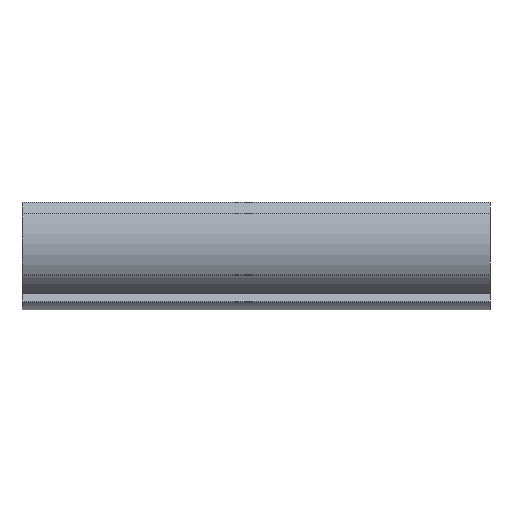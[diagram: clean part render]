
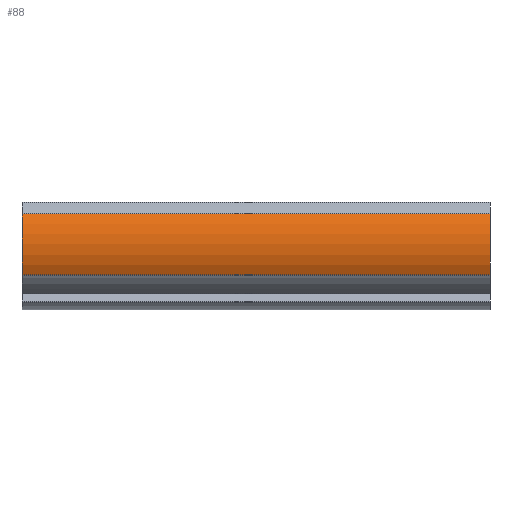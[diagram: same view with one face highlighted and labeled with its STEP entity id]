
A CAD part, left-side view. The second image highlights one B-rep face of the part: STEP entity #88.
In plain terms, the highlighted cylindrical face has radius 14 mm (diameter 28 mm), a partial arc.
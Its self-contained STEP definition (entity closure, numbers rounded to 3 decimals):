
#88 = ADVANCED_FACE( '', ( #212 ), #213, .T. );
#212 = FACE_OUTER_BOUND( '', #371, .T. );
#213 = CYLINDRICAL_SURFACE( '', #372, 14. );
#371 = EDGE_LOOP( '', ( #559, #560, #561, #562 ) );
#372 = AXIS2_PLACEMENT_3D( '', #563, #564, #565 );
#559 = ORIENTED_EDGE( '', *, *, #1025, .F. );
#560 = ORIENTED_EDGE( '', *, *, #1026, .F. );
#561 = ORIENTED_EDGE( '', *, *, #1027, .T. );
#562 = ORIENTED_EDGE( '', *, *, #1028, .T. );
#563 = CARTESIAN_POINT( '', ( 0., 100., 2.5 ) );
#564 = DIRECTION( '', ( 0., 1., 0. ) );
#565 = DIRECTION( '', ( 0., 0., -1. ) );
#1025 = EDGE_CURVE( '', #1245, #1246, #1247, .T. );
#1026 = EDGE_CURVE( '', #1248, #1245, #1249, .T. );
#1027 = EDGE_CURVE( '', #1248, #1250, #1251, .T. );
#1028 = EDGE_CURVE( '', #1250, #1246, #1252, .T. );
#1245 = VERTEX_POINT( '', #1556 );
#1246 = VERTEX_POINT( '', #1557 );
#1247 = CIRCLE( '', #1558, 14. );
#1248 = VERTEX_POINT( '', #1559 );
#1249 = LINE( '', #1560, #1561 );
#1250 = VERTEX_POINT( '', #1562 );
#1251 = CIRCLE( '', #1563, 14. );
#1252 = LINE( '', #1564, #1565 );
#1556 = CARTESIAN_POINT( '', ( -12.394, 0., 9.011 ) );
#1557 = CARTESIAN_POINT( '', ( -12.394, 0., -4.011 ) );
#1558 = AXIS2_PLACEMENT_3D( '', #1895, #1896, #1897 );
#1559 = CARTESIAN_POINT( '', ( -12.394, 100., 9.011 ) );
#1560 = CARTESIAN_POINT( '', ( -12.394, 100., 9.011 ) );
#1561 = VECTOR( '', #1898, 1000. );
#1562 = CARTESIAN_POINT( '', ( -12.394, 100., -4.011 ) );
#1563 = AXIS2_PLACEMENT_3D( '', #1899, #1900, #1901 );
#1564 = CARTESIAN_POINT( '', ( -12.394, 100., -4.011 ) );
#1565 = VECTOR( '', #1902, 1000. );
#1895 = CARTESIAN_POINT( '', ( 0., 0., 2.5 ) );
#1896 = DIRECTION( '', ( 0., -1., 0. ) );
#1897 = DIRECTION( '', ( 1., 0., 0. ) );
#1898 = DIRECTION( '', ( 0., -1., 0. ) );
#1899 = CARTESIAN_POINT( '', ( 0., 100., 2.5 ) );
#1900 = DIRECTION( '', ( 0., -1., 0. ) );
#1901 = DIRECTION( '', ( 1., 0., 0. ) );
#1902 = DIRECTION( '', ( 0., -1., 0. ) );
